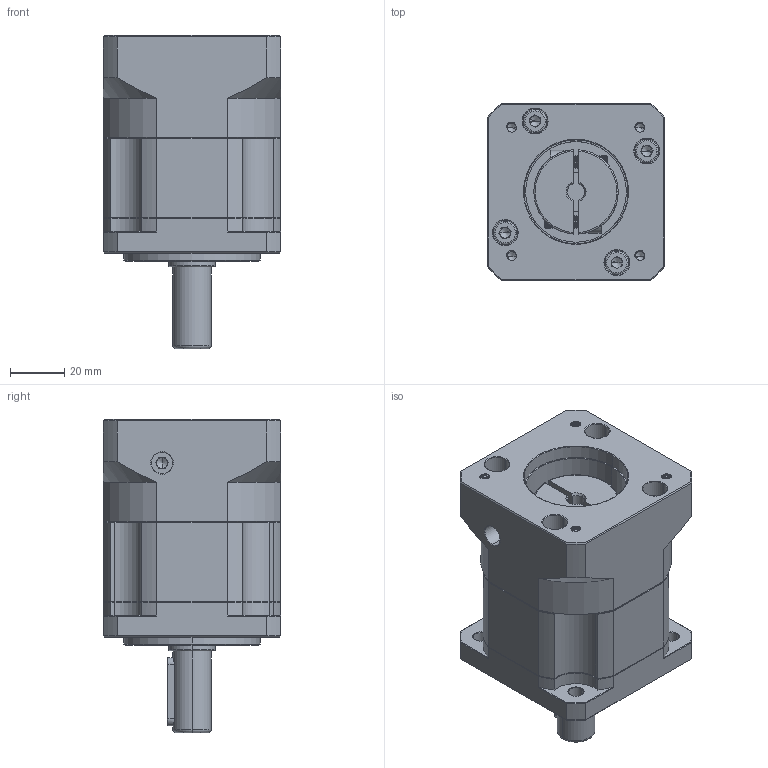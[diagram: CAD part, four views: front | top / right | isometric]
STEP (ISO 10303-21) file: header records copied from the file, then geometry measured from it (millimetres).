
FILE_DESCRIPTION (( 'STEP AP214' ), '1' );
FILE_NAME ('ZB060-D14-L1-P2-6.35-38.1-47.14X47.14-M4.step', '2023-08-16T07:00:08', ( '' ), ( '' ), 'SwSTEP 2.0', 'SolidWorks 2016', '' );
FILE_SCHEMA (( 'AUTOMOTIVE_DESIGN' ));
Length unit declared in the file: millimetre
Products named in the file (1): ZB060-D14-L1-P2-6.35-38.1-47.14X47.14-M4
Bounding box: 65 x 65 x 115 mm (x, y, z)
Volume: 274412.8 mm3; surface area: 54215.3 mm2
Topology: 6 solids, 6 shells, 2144 faces, 5770 edges, 3714 vertices
Faces by surface type: plane 1059, bspline 397, cylinder 371, cone 281, torus 36
Entity records: 113594 total; most frequent: CARTESIAN_POINT 39297, ORIENTED_EDGE 11480, DIRECTION 9062, EDGE_CURVE 5740, VERTEX_POINT 3714, LINE 3624, VECTOR 3624, AXIS2_PLACEMENT_3D 2719
